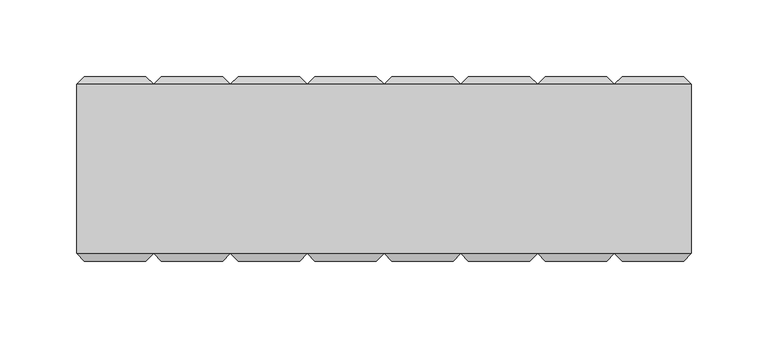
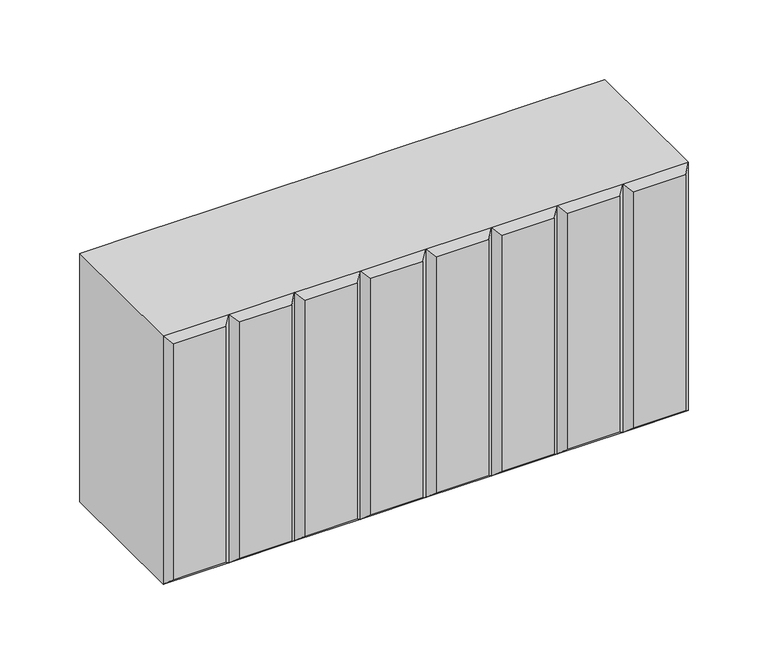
"""IFC4 building model written with IfcOpenShell, lengths in millimetres: geographic element geometry, 化粧ＣＢ5Ｌ : 化粧ＣＢ5Ｌ."""

from ifc_helpers import new_model, si_unit, origin, place, context, project, spatial, faceted_brep, source, transform, mapped, element, save


def geographic_element_d8609427(model_context):
    return source(origin(), model_context, "Body", "Brep", [
        faceted_brep([(0.0, -5.0, 200.0), (0.0, -115.0, 200.0), (50.0, -115.0, 200.0), (100.0, -115.0, 200.0), (150.0, -115.0, 200.0), (200.0, -115.0, 200.0), (250.0, -115.0, 200.0), (300.0, -115.0, 200.0), (350.0, -115.0, 200.0), (400.0, -115.0, 200.0), (400.0, -5.0, 200.0), (350.0, -5.0, 200.0), (300.0, -5.0, 200.0), (250.0, -5.0, 200.0), (200.0, -5.0, 200.0), (150.0, -5.0, 200.0), (100.0, -5.0, 200.0), (50.0, -5.0, 200.0), (400.0, -5.0, 0.0), (400.0, -115.0, 0.0), (350.0, -115.0, 0.0), (300.0, -115.0, 0.0), (250.0, -115.0, 0.0), (200.0, -115.0, 0.0), (150.0, -115.0, 0.0), (100.0, -115.0, 0.0), (50.0, -115.0, 0.0), (0.0, -115.0, 0.0), (0.0, -5.0, 0.0), (50.0, -5.0, 0.0), (100.0, -5.0, 0.0), (150.0, -5.0, 0.0), (200.0, -5.0, 0.0), (250.0, -5.0, 0.0), (300.0, -5.0, 0.0), (350.0, -5.0, 0.0), (5.0, -120.0, 5.0), (5.0, -120.0, 195.0), (45.0, -120.0, 195.0), (45.0, -120.0, 5.0), (55.0, -120.0, 5.0), (55.0, -120.0, 195.0), (95.0, -120.0, 195.0), (95.0, -120.0, 5.0), (105.0, -120.0, 5.0), (105.0, -120.0, 195.0), (145.0, -120.0, 195.0), (145.0, -120.0, 5.0), (155.0, -120.0, 5.0), (155.0, -120.0, 195.0), (195.0, -120.0, 195.0), (195.0, -120.0, 5.0), (205.0, -120.0, 5.0), (205.0, -120.0, 195.0), (245.0, -120.0, 195.0), (245.0, -120.0, 5.0), (255.0, -120.0, 5.0), (255.0, -120.0, 195.0), (295.0, -120.0, 195.0), (295.0, -120.0, 5.0), (305.0, -120.0, 5.0), (305.0, -120.0, 195.0), (345.0, -120.0, 195.0), (345.0, -120.0, 5.0), (355.0, -120.0, 5.0), (355.0, -120.0, 195.0), (395.0, -120.0, 195.0), (395.0, -120.0, 5.0), (395.0, 0.0, 5.0), (395.0, 0.0, 195.0), (355.0, 0.0, 195.0), (355.0, 0.0, 5.0), (345.0, 0.0, 5.0), (345.0, 0.0, 195.0), (305.0, 0.0, 195.0), (305.0, 0.0, 5.0), (295.0, 0.0, 5.0), (295.0, 0.0, 195.0), (255.0, 0.0, 195.0), (255.0, 0.0, 5.0), (245.0, 0.0, 5.0), (245.0, 0.0, 195.0), (205.0, 0.0, 195.0), (205.0, 0.0, 5.0), (195.0, 0.0, 5.0), (195.0, 0.0, 195.0), (155.0, 0.0, 195.0), (155.0, 0.0, 5.0), (145.0, 0.0, 5.0), (145.0, 0.0, 195.0), (105.0, 0.0, 195.0), (105.0, 0.0, 5.0), (95.0, 0.0, 5.0), (95.0, 0.0, 195.0), (55.0, 0.0, 195.0), (55.0, 0.0, 5.0), (45.0, 0.0, 5.0), (45.0, 0.0, 195.0), (5.0, 0.0, 195.0), (5.0, 0.0, 5.0)], [[[0, 1, 2, 3, 4, 5, 6, 7, 8, 9, 10, 11, 12, 13, 14, 15, 16, 17]], [[18, 19, 20, 21, 22, 23, 24, 25, 26, 27, 28, 29, 30, 31, 32, 33, 34, 35]], [[1, 0, 28, 27]], [[1, 27, 36, 37]], [[38, 37, 36, 39]], [[26, 2, 38, 39]], [[2, 26, 40, 41]], [[42, 41, 40, 43]], [[25, 3, 42, 43]], [[3, 25, 44, 45]], [[46, 45, 44, 47]], [[24, 4, 46, 47]], [[4, 24, 48, 49]], [[50, 49, 48, 51]], [[23, 5, 50, 51]], [[5, 23, 52, 53]], [[54, 53, 52, 55]], [[22, 6, 54, 55]], [[6, 22, 56, 57]], [[58, 57, 56, 59]], [[21, 7, 58, 59]], [[7, 21, 60, 61]], [[62, 61, 60, 63]], [[20, 8, 62, 63]], [[8, 20, 64, 65]], [[66, 65, 64, 67]], [[19, 9, 66, 67]], [[10, 9, 19, 18]], [[10, 18, 68, 69]], [[70, 69, 68, 71]], [[35, 11, 70, 71]], [[11, 35, 72, 73]], [[74, 73, 72, 75]], [[34, 12, 74, 75]], [[12, 34, 76, 77]], [[78, 77, 76, 79]], [[33, 13, 78, 79]], [[13, 33, 80, 81]], [[82, 81, 80, 83]], [[32, 14, 82, 83]], [[14, 32, 84, 85]], [[86, 85, 84, 87]], [[31, 15, 86, 87]], [[15, 31, 88, 89]], [[90, 89, 88, 91]], [[30, 16, 90, 91]], [[16, 30, 92, 93]], [[94, 93, 92, 95]], [[29, 17, 94, 95]], [[17, 29, 96, 97]], [[98, 97, 96, 99]], [[28, 0, 98, 99]], [[0, 17, 97, 98]], [[11, 10, 69, 70]], [[12, 11, 73, 74]], [[13, 12, 77, 78]], [[14, 13, 81, 82]], [[15, 14, 85, 86]], [[16, 15, 89, 90]], [[17, 16, 93, 94]], [[2, 1, 37, 38]], [[3, 2, 41, 42]], [[4, 3, 45, 46]], [[5, 4, 49, 50]], [[6, 5, 53, 54]], [[7, 6, 57, 58]], [[8, 7, 61, 62]], [[9, 8, 65, 66]], [[29, 28, 99, 96]], [[30, 29, 95, 92]], [[31, 30, 91, 88]], [[32, 31, 87, 84]], [[33, 32, 83, 80]], [[34, 33, 79, 76]], [[35, 34, 75, 72]], [[18, 35, 71, 68]], [[20, 19, 67, 64]], [[21, 20, 63, 60]], [[22, 21, 59, 56]], [[23, 22, 55, 52]], [[24, 23, 51, 48]], [[25, 24, 47, 44]], [[26, 25, 43, 40]], [[27, 26, 39, 36]]]),
    ])


if __name__ == "__main__":
    model = new_model("IFC4")
    model_context = context("Model", 3, world=origin())
    ifc_project = project(units=[si_unit("LENGTHUNIT", "METRE", prefix="MILLI")], contexts=[model_context])
    site = spatial("IfcSite", under=ifc_project)
    building = spatial("IfcBuilding", under=site)
    placement = place(None, origin())
    geographic_element_shape = geographic_element_d8609427(model_context)
    element("IfcGeographicElement", 1, ObjectType="化粧ＣＢ5Ｌ : 化粧ＣＢ5Ｌ", at=placement, inside=building, context=model_context, shape_type="MappedRepresentation", body=[
        mapped(geographic_element_shape, transform((0.0, 0.0, 0.0), x_axis=(1.0, 0.0, 0.0), y_axis=(0.0, 1.0, 0.0), z_axis=(0.0, 0.0, 1.0))),
    ])
    save(model, "model.ifc")
